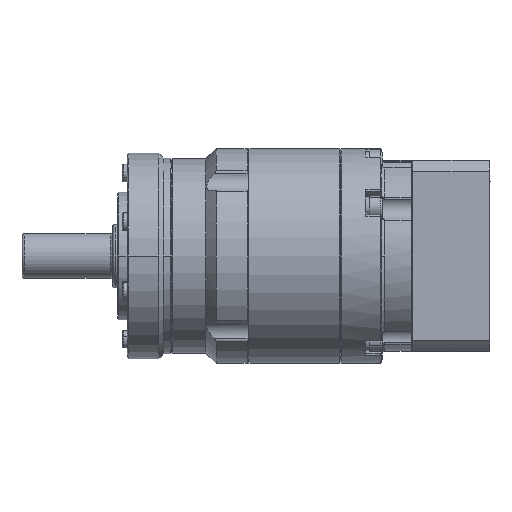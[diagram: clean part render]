
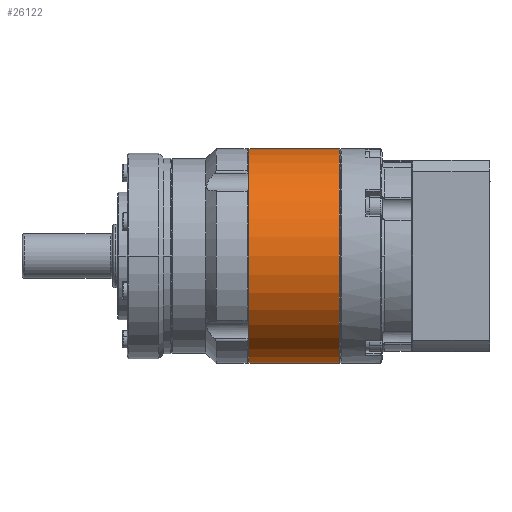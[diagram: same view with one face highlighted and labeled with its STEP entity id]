
A CAD part, front view. The second image highlights one B-rep face of the part: STEP entity #26122.
In plain terms, the highlighted cylindrical face has radius 33.75 mm (diameter 67.5 mm), a partial arc.
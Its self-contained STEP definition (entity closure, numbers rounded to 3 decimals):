
#1732 = CIRCLE ( 'NONE', #33215, 33.75 ) ;
#3524 = ORIENTED_EDGE ( 'NONE', *, *, #36683, .T. ) ;
#6302 = DIRECTION ( 'NONE',  ( -1., 0., 0. ) ) ;
#6914 = CIRCLE ( 'NONE', #23666, 33.75 ) ;
#7879 = VECTOR ( 'NONE', #17706, 1000. ) ;
#8391 = CARTESIAN_POINT ( 'NONE',  ( 28.7, 0., -33.75 ) ) ;
#9414 = LINE ( 'NONE', #29975, #7879 ) ;
#11380 = VERTEX_POINT ( 'NONE', #8391 ) ;
#11610 = VERTEX_POINT ( 'NONE', #16112 ) ;
#14410 = VERTEX_POINT ( 'NONE', #40534 ) ;
#16112 = CARTESIAN_POINT ( 'NONE',  ( 0.3, 0., 33.75 ) ) ;
#17252 = DIRECTION ( 'NONE',  ( -1., 0., 0. ) ) ;
#17475 = DIRECTION ( 'NONE',  ( -1., 0., 0. ) ) ;
#17706 = DIRECTION ( 'NONE',  ( -1., 0., 0. ) ) ;
#17765 = DIRECTION ( 'NONE',  ( 0., 0., 1. ) ) ;
#21833 = DIRECTION ( 'NONE',  ( -1., 0., 0. ) ) ;
#22677 = DIRECTION ( 'NONE',  ( 0., 0., 1. ) ) ;
#23666 = AXIS2_PLACEMENT_3D ( 'NONE', #25913, #6302, #22677 ) ;
#25095 = EDGE_CURVE ( 'NONE', #11380, #14410, #9414, .T. ) ;
#25685 = CYLINDRICAL_SURFACE ( 'NONE', #40204, 33.75 ) ;
#25913 = CARTESIAN_POINT ( 'NONE',  ( 28.7, 0., 0. ) ) ;
#26122 = ADVANCED_FACE ( 'NONE', ( #38255 ), #25685, .T. ) ;
#27321 = VERTEX_POINT ( 'NONE', #31716 ) ;
#27719 = EDGE_LOOP ( 'NONE', ( #30583, #3524, #37348, #37371 ) ) ;
#29975 = CARTESIAN_POINT ( 'NONE',  ( -4.798, 0., -33.75 ) ) ;
#30583 = ORIENTED_EDGE ( 'NONE', *, *, #25095, .F. ) ;
#30606 = LINE ( 'NONE', #34676, #37631 ) ;
#30874 = EDGE_CURVE ( 'NONE', #14410, #11610, #1732, .T. ) ;
#30879 = CARTESIAN_POINT ( 'NONE',  ( -4.798, 0., 0. ) ) ;
#31716 = CARTESIAN_POINT ( 'NONE',  ( 28.7, 0., 33.75 ) ) ;
#33215 = AXIS2_PLACEMENT_3D ( 'NONE', #39456, #17252, #36403 ) ;
#33795 = EDGE_CURVE ( 'NONE', #27321, #11610, #30606, .T. ) ;
#34676 = CARTESIAN_POINT ( 'NONE',  ( -4.798, 0., 33.75 ) ) ;
#36403 = DIRECTION ( 'NONE',  ( 0., 0., -1. ) ) ;
#36683 = EDGE_CURVE ( 'NONE', #11380, #27321, #6914, .T. ) ;
#37348 = ORIENTED_EDGE ( 'NONE', *, *, #33795, .T. ) ;
#37371 = ORIENTED_EDGE ( 'NONE', *, *, #30874, .F. ) ;
#37631 = VECTOR ( 'NONE', #21833, 1000. ) ;
#38255 = FACE_OUTER_BOUND ( 'NONE', #27719, .T. ) ;
#39456 = CARTESIAN_POINT ( 'NONE',  ( 0.3, 0., 0. ) ) ;
#40204 = AXIS2_PLACEMENT_3D ( 'NONE', #30879, #17475, #17765 ) ;
#40534 = CARTESIAN_POINT ( 'NONE',  ( 0.3, 0., -33.75 ) ) ;
